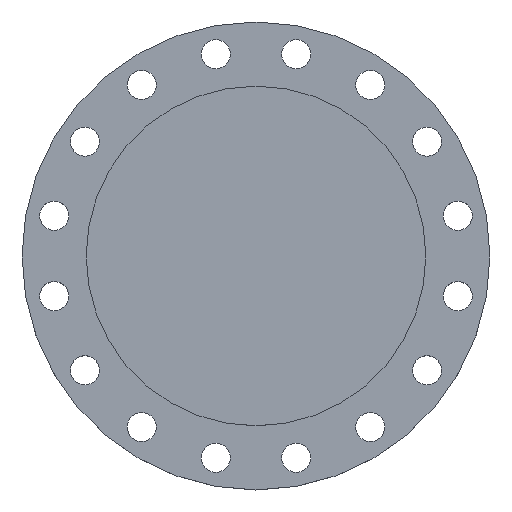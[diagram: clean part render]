
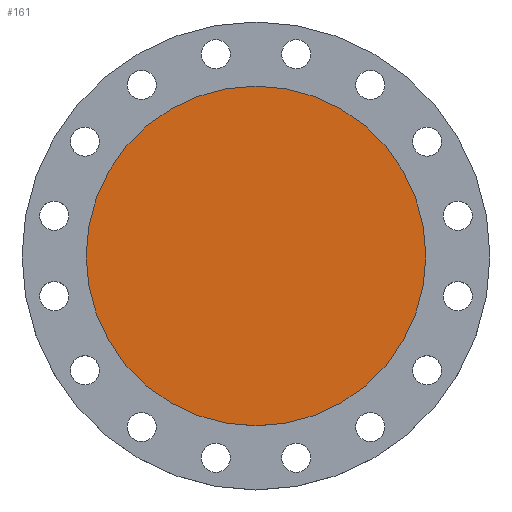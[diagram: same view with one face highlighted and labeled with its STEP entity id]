
A CAD part, top view. The second image highlights one B-rep face of the part: STEP entity #161.
In plain terms, the highlighted planar face has unit normal (0, 0, 1).
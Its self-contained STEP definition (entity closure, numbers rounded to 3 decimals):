
#53 = CARTESIAN_POINT ( 'NONE',  ( -210.5, 0., 0. ) ) ;
#90 = AXIS2_PLACEMENT_3D ( 'NONE', #518, #517, #514 ) ;
#161 = ADVANCED_FACE ( 'NONE', ( #679 ), #678, .T. ) ;
#228 = CARTESIAN_POINT ( 'NONE',  ( 210.5, 0., 0. ) ) ;
#429 = EDGE_CURVE ( 'NONE', #1378, #1153, #618, .T. ) ;
#514 = DIRECTION ( 'NONE',  ( -1., 0., 0. ) ) ;
#517 = DIRECTION ( 'NONE',  ( 0., 0., -1. ) ) ;
#518 = CARTESIAN_POINT ( 'NONE',  ( 0., 0., 0. ) ) ;
#611 = DIRECTION ( 'NONE',  ( -1., 0., 0. ) ) ;
#612 = DIRECTION ( 'NONE',  ( 0., 0., -1. ) ) ;
#613 = CARTESIAN_POINT ( 'NONE',  ( 0., 0., 0. ) ) ;
#618 = CIRCLE ( 'NONE', #947, 210.5 ) ;
#675 = DIRECTION ( 'NONE',  ( 1., 0., 0. ) ) ;
#676 = DIRECTION ( 'NONE',  ( 0., 0., 1. ) ) ;
#677 = CARTESIAN_POINT ( 'NONE',  ( 0., 0., 0. ) ) ;
#678 = PLANE ( 'NONE',  #1282 ) ;
#679 = FACE_OUTER_BOUND ( 'NONE', #1234, .T. ) ;
#774 = EDGE_CURVE ( 'NONE', #1153, #1378, #1101, .T. ) ;
#947 = AXIS2_PLACEMENT_3D ( 'NONE', #613, #612, #611 ) ;
#1101 = CIRCLE ( 'NONE', #90, 210.5 ) ;
#1153 = VERTEX_POINT ( 'NONE', #228 ) ;
#1234 = EDGE_LOOP ( 'NONE', ( #1270, #1272 ) ) ;
#1270 = ORIENTED_EDGE ( 'NONE', *, *, #429, .F. ) ;
#1272 = ORIENTED_EDGE ( 'NONE', *, *, #774, .F. ) ;
#1282 = AXIS2_PLACEMENT_3D ( 'NONE', #677, #676, #675 ) ;
#1378 = VERTEX_POINT ( 'NONE', #53 ) ;
